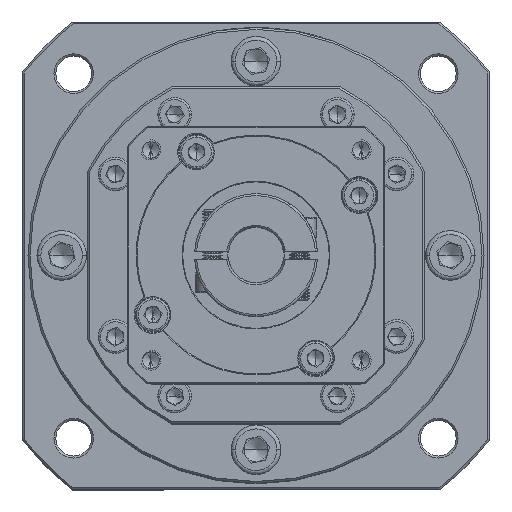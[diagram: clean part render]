
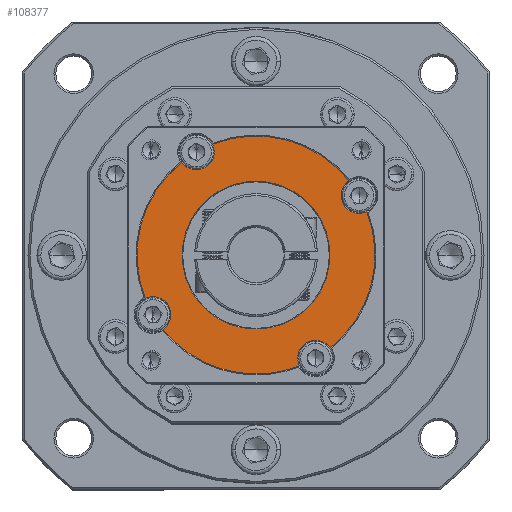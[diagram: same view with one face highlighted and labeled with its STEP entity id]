
A CAD part, top view. The second image highlights one B-rep face of the part: STEP entity #108377.
In plain terms, the highlighted planar face has unit normal (0, 0, 1).
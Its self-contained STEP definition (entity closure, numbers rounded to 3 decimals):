
#759 = CARTESIAN_POINT ( 'NONE',  ( 42.238, 98.762, -12.248 ) ) ;
#1474 = AXIS2_PLACEMENT_3D ( 'NONE', #135644, #22514, #128748 ) ;
#2235 = DIRECTION ( 'NONE',  ( 0., -1., 0. ) ) ;
#3807 = CARTESIAN_POINT ( 'NONE',  ( 68.219, 109.262, -12.248 ) ) ;
#8508 = DIRECTION ( 'NONE',  ( 0., 0., 1. ) ) ;
#9152 = ORIENTED_EDGE ( 'NONE', *, *, #17653, .F. ) ;
#13160 = CARTESIAN_POINT ( 'NONE',  ( 94.2, 124.262, -12.248 ) ) ;
#13761 = CARTESIAN_POINT ( 'NONE',  ( 79.164, 81.33, -12.248 ) ) ;
#13971 = ORIENTED_EDGE ( 'NONE', *, *, #118132, .F. ) ;
#15728 = DIRECTION ( 'NONE',  ( 0., -1., 0. ) ) ;
#15862 = ORIENTED_EDGE ( 'NONE', *, *, #66872, .T. ) ;
#16942 = DIRECTION ( 'NONE',  ( 0., 0., 1. ) ) ;
#17653 = EDGE_CURVE ( 'NONE', #74014, #75972, #62709, .T. ) ;
#18700 = AXIS2_PLACEMENT_3D ( 'NONE', #3807, #129358, #15728 ) ;
#18761 = DIRECTION ( 'NONE',  ( 0., 0., 1. ) ) ;
#18971 = CARTESIAN_POINT ( 'NONE',  ( 83.219, 83.281, -12.248 ) ) ;
#19200 = FACE_OUTER_BOUND ( 'NONE', #92132, .T. ) ;
#19922 = DIRECTION ( 'NONE',  ( 0., 0., 1. ) ) ;
#22011 = CARTESIAN_POINT ( 'NONE',  ( 68.219, 109.262, -12.248 ) ) ;
#22491 = DIRECTION ( 'NONE',  ( 0., 0., 1. ) ) ;
#22514 = DIRECTION ( 'NONE',  ( 0., 0., 1. ) ) ;
#23881 = CARTESIAN_POINT ( 'NONE',  ( 40.287, 98.317, -12.248 ) ) ;
#23891 = AXIS2_PLACEMENT_3D ( 'NONE', #62530, #8508, #72240 ) ;
#24565 = DIRECTION ( 'NONE',  ( 0., -1., 0. ) ) ;
#28200 = AXIS2_PLACEMENT_3D ( 'NONE', #22011, #42681, #116269 ) ;
#29560 = DIRECTION ( 'NONE',  ( 0., -1., 0. ) ) ;
#30774 = CIRCLE ( 'NONE', #38115, 30. ) ;
#32605 = DIRECTION ( 'NONE',  ( 0., -1., 0. ) ) ;
#33841 = ORIENTED_EDGE ( 'NONE', *, *, #46642, .F. ) ;
#34071 = ORIENTED_EDGE ( 'NONE', *, *, #69521, .F. ) ;
#34092 = CIRCLE ( 'NONE', #101796, 4.5 ) ;
#34517 = EDGE_CURVE ( 'NONE', #49813, #105122, #74082, .T. ) ;
#34801 = CIRCLE ( 'NONE', #45972, 4.5 ) ;
#35134 = CIRCLE ( 'NONE', #1474, 4.5 ) ;
#35491 = VERTEX_POINT ( 'NONE', #113271 ) ;
#38115 = AXIS2_PLACEMENT_3D ( 'NONE', #132381, #16942, #101020 ) ;
#39474 = VERTEX_POINT ( 'NONE', #58109 ) ;
#40294 = DIRECTION ( 'NONE',  ( 0., 0., 1. ) ) ;
#40875 = DIRECTION ( 'NONE',  ( 0., 0., 1. ) ) ;
#42681 = DIRECTION ( 'NONE',  ( 0., 0., 1. ) ) ;
#44426 = DIRECTION ( 'NONE',  ( 0., -1., 0. ) ) ;
#44762 = CARTESIAN_POINT ( 'NONE',  ( 94.2, 119.762, -12.248 ) ) ;
#45245 = DIRECTION ( 'NONE',  ( 0., 0., -1. ) ) ;
#45972 = AXIS2_PLACEMENT_3D ( 'NONE', #13160, #64993, #44426 ) ;
#46642 = EDGE_CURVE ( 'NONE', #105122, #71731, #57658, .T. ) ;
#47550 = AXIS2_PLACEMENT_3D ( 'NONE', #69094, #80162, #102209 ) ;
#49813 = VERTEX_POINT ( 'NONE', #97844 ) ;
#53868 = AXIS2_PLACEMENT_3D ( 'NONE', #124006, #40294, #92623 ) ;
#54335 = AXIS2_PLACEMENT_3D ( 'NONE', #122779, #132891, #101998 ) ;
#55186 = EDGE_LOOP ( 'NONE', ( #97344, #133257 ) ) ;
#56528 = CIRCLE ( 'NONE', #54335, 4.5 ) ;
#57143 = CIRCLE ( 'NONE', #28200, 30. ) ;
#57658 = CIRCLE ( 'NONE', #23891, 4.5 ) ;
#58109 = CARTESIAN_POINT ( 'NONE',  ( 91.664, 127.979, -12.248 ) ) ;
#59136 = CARTESIAN_POINT ( 'NONE',  ( 86.936, 85.817, -12.248 ) ) ;
#59362 = CIRCLE ( 'NONE', #47550, 18.644 ) ;
#60240 = FACE_BOUND ( 'NONE', #55186, .T. ) ;
#61945 = EDGE_CURVE ( 'NONE', #39474, #109208, #30774, .T. ) ;
#62530 = CARTESIAN_POINT ( 'NONE',  ( 42.238, 94.262, -12.248 ) ) ;
#62709 = CIRCLE ( 'NONE', #72189, 4.5 ) ;
#64806 = EDGE_CURVE ( 'NONE', #49813, #131955, #95302, .T. ) ;
#64993 = DIRECTION ( 'NONE',  ( 0., 0., 1. ) ) ;
#65785 = ORIENTED_EDGE ( 'NONE', *, *, #110581, .F. ) ;
#66872 = EDGE_CURVE ( 'NONE', #74014, #71731, #57143, .T. ) ;
#67190 = CARTESIAN_POINT ( 'NONE',  ( 68.219, 109.262, -12.248 ) ) ;
#67823 = EDGE_CURVE ( 'NONE', #111168, #94987, #88074, .T. ) ;
#69094 = CARTESIAN_POINT ( 'NONE',  ( 68.219, 109.262, -12.248 ) ) ;
#69521 = EDGE_CURVE ( 'NONE', #112950, #94987, #35134, .T. ) ;
#69827 = ORIENTED_EDGE ( 'NONE', *, *, #61945, .T. ) ;
#71731 = VERTEX_POINT ( 'NONE', #23881 ) ;
#72189 = AXIS2_PLACEMENT_3D ( 'NONE', #123197, #18761, #80362 ) ;
#72240 = DIRECTION ( 'NONE',  ( 0., -1., 0. ) ) ;
#74014 = VERTEX_POINT ( 'NONE', #74056 ) ;
#74056 = CARTESIAN_POINT ( 'NONE',  ( 49.502, 132.707, -12.248 ) ) ;
#74082 = CIRCLE ( 'NONE', #75992, 4.5 ) ;
#75295 = CARTESIAN_POINT ( 'NONE',  ( 68.219, 109.262, -12.248 ) ) ;
#75972 = VERTEX_POINT ( 'NONE', #104570 ) ;
#75992 = AXIS2_PLACEMENT_3D ( 'NONE', #82853, #19922, #126151 ) ;
#76985 = CARTESIAN_POINT ( 'NONE',  ( 57.274, 137.194, -12.248 ) ) ;
#77445 = CIRCLE ( 'NONE', #94278, 4.5 ) ;
#77834 = EDGE_CURVE ( 'NONE', #100182, #91715, #123619, .T. ) ;
#80162 = DIRECTION ( 'NONE',  ( 0., 0., -1. ) ) ;
#80362 = DIRECTION ( 'NONE',  ( 0., -1., 0. ) ) ;
#81806 = ORIENTED_EDGE ( 'NONE', *, *, #106564, .F. ) ;
#82853 = CARTESIAN_POINT ( 'NONE',  ( 42.238, 94.262, -12.248 ) ) ;
#85276 = CIRCLE ( 'NONE', #53868, 30. ) ;
#85479 = DIRECTION ( 'NONE',  ( 0., -1., 0. ) ) ;
#87639 = DIRECTION ( 'NONE',  ( 0., 0., 1. ) ) ;
#88074 = CIRCLE ( 'NONE', #18700, 30. ) ;
#88306 = CARTESIAN_POINT ( 'NONE',  ( 68.219, 90.618, -12.248 ) ) ;
#91715 = VERTEX_POINT ( 'NONE', #120616 ) ;
#92132 = EDGE_LOOP ( 'NONE', ( #9152, #15862, #33841, #95334, #132794, #120032, #13971, #65785, #114009, #34071, #81806, #69827, #119044 ) ) ;
#92437 = DIRECTION ( 'NONE',  ( 0., 0., 1. ) ) ;
#92623 = DIRECTION ( 'NONE',  ( 0., -1., 0. ) ) ;
#93180 = VERTEX_POINT ( 'NONE', #13761 ) ;
#94278 = AXIS2_PLACEMENT_3D ( 'NONE', #118540, #87639, #2235 ) ;
#94987 = VERTEX_POINT ( 'NONE', #119495 ) ;
#95302 = CIRCLE ( 'NONE', #106287, 30. ) ;
#95334 = ORIENTED_EDGE ( 'NONE', *, *, #34517, .F. ) ;
#95543 = PLANE ( 'NONE',  #119507 ) ;
#97344 = ORIENTED_EDGE ( 'NONE', *, *, #77834, .T. ) ;
#97844 = CARTESIAN_POINT ( 'NONE',  ( 44.774, 90.545, -12.248 ) ) ;
#99693 = EDGE_CURVE ( 'NONE', #91715, #100182, #59362, .T. ) ;
#100182 = VERTEX_POINT ( 'NONE', #88306 ) ;
#101020 = DIRECTION ( 'NONE',  ( 0., -1., 0. ) ) ;
#101796 = AXIS2_PLACEMENT_3D ( 'NONE', #18971, #92437, #29560 ) ;
#101998 = DIRECTION ( 'NONE',  ( 0., -1., 0. ) ) ;
#102209 = DIRECTION ( 'NONE',  ( 0., -1., 0. ) ) ;
#104570 = CARTESIAN_POINT ( 'NONE',  ( 53.219, 130.743, -12.248 ) ) ;
#105122 = VERTEX_POINT ( 'NONE', #759 ) ;
#106287 = AXIS2_PLACEMENT_3D ( 'NONE', #127391, #40875, #85479 ) ;
#106564 = EDGE_CURVE ( 'NONE', #39474, #112950, #34801, .T. ) ;
#108377 = ADVANCED_FACE ( 'NONE', ( #60240, #19200 ), #95543, .T. ) ;
#109208 = VERTEX_POINT ( 'NONE', #76985 ) ;
#109733 = EDGE_CURVE ( 'NONE', #75972, #109208, #56528, .T. ) ;
#110581 = EDGE_CURVE ( 'NONE', #111168, #35491, #77445, .T. ) ;
#111168 = VERTEX_POINT ( 'NONE', #59136 ) ;
#112950 = VERTEX_POINT ( 'NONE', #44762 ) ;
#113271 = CARTESIAN_POINT ( 'NONE',  ( 83.219, 87.781, -12.248 ) ) ;
#114009 = ORIENTED_EDGE ( 'NONE', *, *, #67823, .T. ) ;
#116269 = DIRECTION ( 'NONE',  ( 0., -1., 0. ) ) ;
#118132 = EDGE_CURVE ( 'NONE', #35491, #93180, #34092, .T. ) ;
#118540 = CARTESIAN_POINT ( 'NONE',  ( 83.219, 83.281, -12.248 ) ) ;
#119044 = ORIENTED_EDGE ( 'NONE', *, *, #109733, .F. ) ;
#119495 = CARTESIAN_POINT ( 'NONE',  ( 96.151, 120.207, -12.248 ) ) ;
#119507 = AXIS2_PLACEMENT_3D ( 'NONE', #75295, #22491, #32605 ) ;
#119764 = CARTESIAN_POINT ( 'NONE',  ( 68.219, 79.262, -12.248 ) ) ;
#120032 = ORIENTED_EDGE ( 'NONE', *, *, #133264, .T. ) ;
#120616 = CARTESIAN_POINT ( 'NONE',  ( 68.219, 127.906, -12.248 ) ) ;
#121710 = AXIS2_PLACEMENT_3D ( 'NONE', #67190, #45245, #24565 ) ;
#122779 = CARTESIAN_POINT ( 'NONE',  ( 53.219, 135.243, -12.248 ) ) ;
#123197 = CARTESIAN_POINT ( 'NONE',  ( 53.219, 135.243, -12.248 ) ) ;
#123619 = CIRCLE ( 'NONE', #121710, 18.644 ) ;
#124006 = CARTESIAN_POINT ( 'NONE',  ( 68.219, 109.262, -12.248 ) ) ;
#126151 = DIRECTION ( 'NONE',  ( 0., -1., 0. ) ) ;
#127391 = CARTESIAN_POINT ( 'NONE',  ( 68.219, 109.262, -12.248 ) ) ;
#128748 = DIRECTION ( 'NONE',  ( 0., -1., 0. ) ) ;
#129358 = DIRECTION ( 'NONE',  ( 0., 0., 1. ) ) ;
#131955 = VERTEX_POINT ( 'NONE', #119764 ) ;
#132381 = CARTESIAN_POINT ( 'NONE',  ( 68.219, 109.262, -12.248 ) ) ;
#132794 = ORIENTED_EDGE ( 'NONE', *, *, #64806, .T. ) ;
#132891 = DIRECTION ( 'NONE',  ( 0., 0., 1. ) ) ;
#133257 = ORIENTED_EDGE ( 'NONE', *, *, #99693, .T. ) ;
#133264 = EDGE_CURVE ( 'NONE', #131955, #93180, #85276, .T. ) ;
#135644 = CARTESIAN_POINT ( 'NONE',  ( 94.2, 124.262, -12.248 ) ) ;
